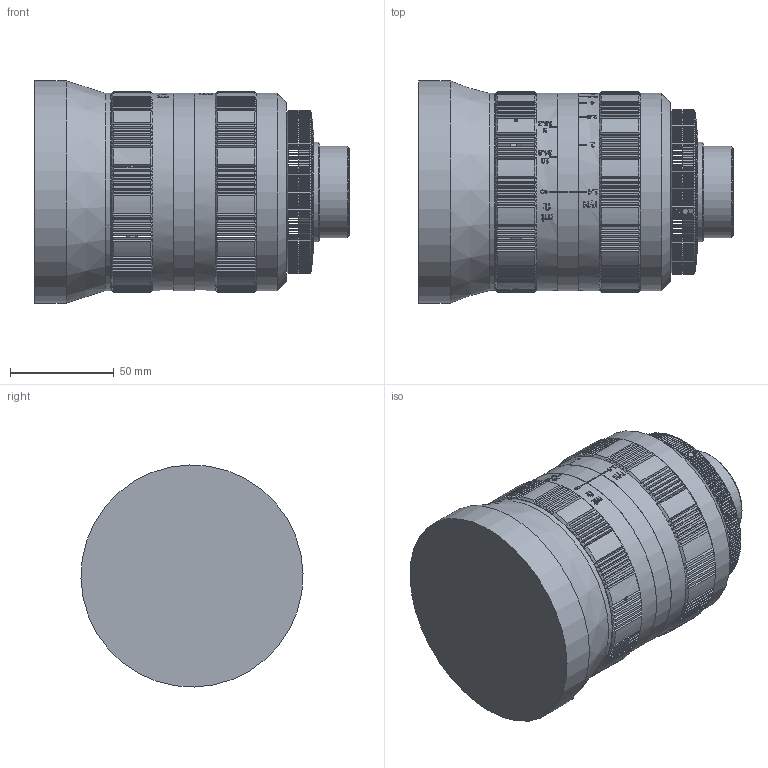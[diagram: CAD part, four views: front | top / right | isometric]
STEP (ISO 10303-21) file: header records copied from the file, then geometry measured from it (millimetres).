
FILE_DESCRIPTION((''),'2;1');
FILE_NAME('\\10.0.0.209\Doc Produ\Meccaniche\STP\A_2008\C0812\C0812_000\C0812_001.stp','2014-04-28T11:19:39',('mcilia'),(''),'Autodesk Inventor 2010','Autodesk Inventor 2010','');
FILE_SCHEMA(('AUTOMOTIVE_DESIGN { 1 0 10303 214 1 1 1 1 }'));
Length unit declared in the file: millimetre
Products named in the file (2): C0812_001_000 (Livello di dettaglio sostituto1); C0812_001
Assembly tree (1 placements, depth 2):
  C0812_001_000 (Livello di dettaglio sostituto1)
    C0812_001
Bounding box: 151.71 x 106.98 x 106.98 mm (x, y, z)
Surface area: 123491.9 mm2 (no closed solid volume)
Topology: 0 solids, 25 shells, 1247 faces, 4389 edges, 2963 vertices
Faces by surface type: plane 670, cone 372, cylinder 199, bspline 5, sphere 1
Full cylindrical faces by diameter (mm): 42 x1, 44 x1, 48 x1, 90.5 x1, 95 x4, 107 x1
Entity records: 47456 total; most frequent: CARTESIAN_POINT 13315, ORIENTED_EDGE 6880, DIRECTION 6538, EDGE_CURVE 4359, VERTEX_POINT 2955, AXIS2_PLACEMENT_3D 2630, CIRCLE 1351, EDGE_LOOP 1315
